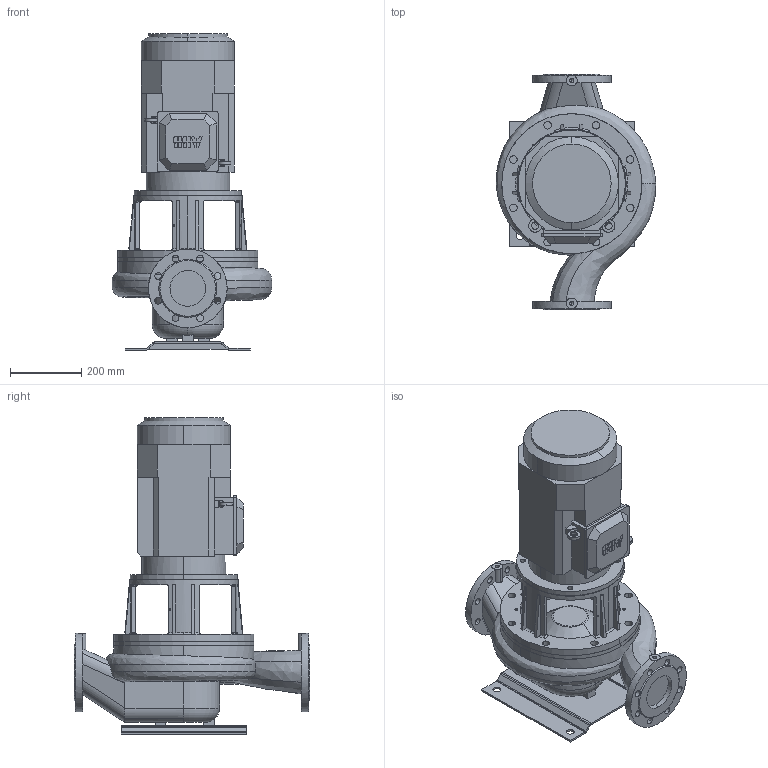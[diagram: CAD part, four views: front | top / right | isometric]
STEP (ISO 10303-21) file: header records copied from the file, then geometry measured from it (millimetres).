
FILE_DESCRIPTION(('STEP AP214'),'1');
FILE_NAME('export.stp','2018-05-30T07:03:17',(' '),(' '),'Spatial InterOp 3D',' ',' ');
FILE_SCHEMA(('AUTOMOTIVE_DESIGN { 1 0 10303 214 1 1 1 1 }'));
Length unit declared in the file: millimetre
Products named in the file (9): W_L100S4SD750; V_TLL100SAL1202; V_PPL100S; P100496; P100495; P100342; IEC132_FRAME; IEC-132; P100906
Assembly tree (9 placements, depth 3):
  W_L100S4SD750
    V_TLL100SAL1202
    V_PPL100S
    P100496
      P100495  x2
      P100342
    IEC132_FRAME
      IEC-132
      P100906
Bounding box: 446.61 x 660 x 885.5 mm (x, y, z)
Volume: 50823803.7 mm3; surface area: 2447604 mm2
Topology: 7 solids, 7 shells, 584 faces, 1642 edges, 1081 vertices
Faces by surface type: plane 252, cylinder 248, cone 30, bspline 28, torus 26
Entity records: 27762 total; most frequent: CARTESIAN_POINT 8130, ORIENTED_EDGE 3240, DIRECTION 3029, EDGE_CURVE 1620, AXIS2_PLACEMENT_3D 1122, VERTEX_POINT 1073, LINE 785, VECTOR 785
